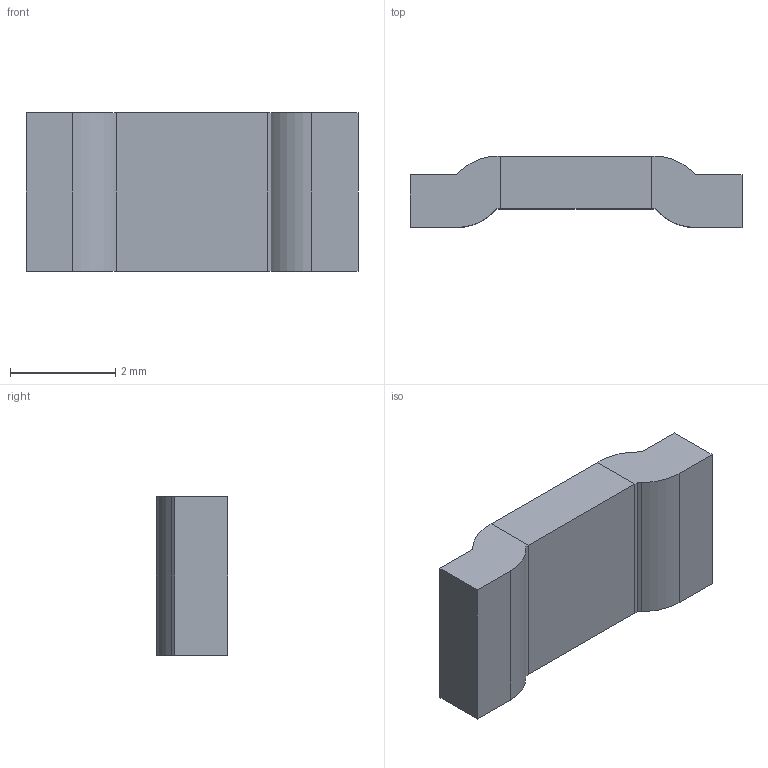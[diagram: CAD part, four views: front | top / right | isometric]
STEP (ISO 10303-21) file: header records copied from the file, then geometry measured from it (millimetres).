
FILE_DESCRIPTION (( 'STEP AP203' ), '1' );
FILE_NAME ('2512-1.0m次.STEP', '2023-11-22T07:18:22', ( 'meks@163.com' ), ( '' ), 'SwSTEP 2.0', 'SolidWorks 2020', '' );
FILE_SCHEMA (( 'CONFIG_CONTROL_DESIGN' ));
Length unit declared in the file: millimetre
Products named in the file (1): 2512-1.0m次
Bounding box: 6.3 x 1.35 x 3 mm (x, y, z)
Volume: 19.5 mm3; surface area: 70 mm2
Topology: 3 solids, 3 shells, 30 faces, 72 edges, 48 vertices
Faces by surface type: plane 26, cylinder 4
Entity records: 937 total; most frequent: CARTESIAN_POINT 151, ORIENTED_EDGE 144, DIRECTION 142, EDGE_CURVE 72, VECTOR 64, LINE 64, VERTEX_POINT 48, AXIS2_PLACEMENT_3D 39
